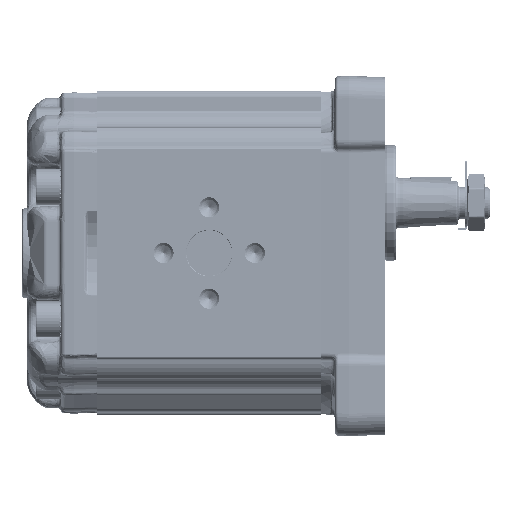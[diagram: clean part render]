
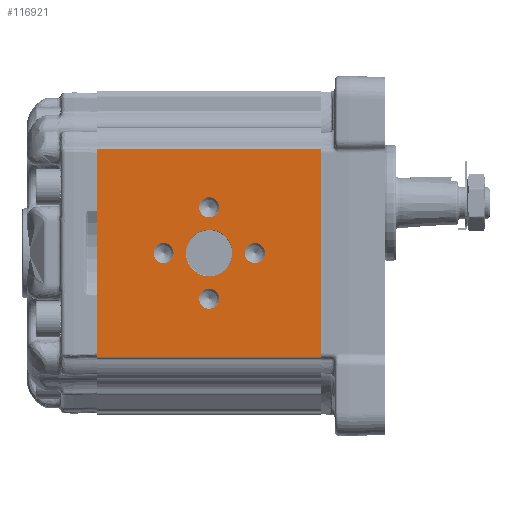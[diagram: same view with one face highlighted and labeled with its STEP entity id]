
A CAD part, left-side view. The second image highlights one B-rep face of the part: STEP entity #116921.
In plain terms, the highlighted planar face has unit normal (-1, 0, 0) as drawn and (1, 0, 0) by its records, which use the part's own axes.
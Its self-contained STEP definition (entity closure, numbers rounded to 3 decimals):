
#6837=PLANE('',#123596);
#9658=LINE('',#179817,#14517);
#9669=LINE('',#179901,#14528);
#9715=LINE('',#180067,#14574);
#9716=LINE('',#180068,#14575);
#14517=VECTOR('',#137532,1000.);
#14528=VECTOR('',#137607,1000.);
#14574=VECTOR('',#137785,1000.);
#14575=VECTOR('',#137786,1000.);
#29621=ORIENTED_EDGE('',*,*,#50610,.T.);
#29622=ORIENTED_EDGE('',*,*,#50611,.T.);
#29623=ORIENTED_EDGE('',*,*,#50612,.T.);
#29624=ORIENTED_EDGE('',*,*,#50613,.T.);
#29625=ORIENTED_EDGE('',*,*,#50614,.T.);
#29626=ORIENTED_EDGE('',*,*,#50485,.F.);
#29627=ORIENTED_EDGE('',*,*,#50615,.T.);
#29628=ORIENTED_EDGE('',*,*,#50527,.F.);
#29629=ORIENTED_EDGE('',*,*,#50616,.T.);
#50485=EDGE_CURVE('',#61846,#61847,#9658,.T.);
#50527=EDGE_CURVE('',#61888,#61889,#9669,.T.);
#50610=EDGE_CURVE('',#61937,#61937,#68749,.F.);
#50611=EDGE_CURVE('',#61938,#61938,#68750,.F.);
#50612=EDGE_CURVE('',#61939,#61939,#68751,.F.);
#50613=EDGE_CURVE('',#61940,#61940,#68752,.F.);
#50614=EDGE_CURVE('',#61941,#61941,#68753,.F.);
#50615=EDGE_CURVE('',#61846,#61889,#9715,.F.);
#50616=EDGE_CURVE('',#61888,#61847,#9716,.F.);
#61846=VERTEX_POINT('',#179816);
#61847=VERTEX_POINT('',#179818);
#61888=VERTEX_POINT('',#179902);
#61889=VERTEX_POINT('',#179903);
#61937=VERTEX_POINT('',#180058);
#61938=VERTEX_POINT('',#180060);
#61939=VERTEX_POINT('',#180062);
#61940=VERTEX_POINT('',#180064);
#61941=VERTEX_POINT('',#180066);
#68749=CIRCLE('',#123597,4.4);
#68750=CIRCLE('',#123598,4.4);
#68751=CIRCLE('',#123599,4.4);
#68752=CIRCLE('',#123600,4.4);
#68753=CIRCLE('',#123601,10.2);
#73000=EDGE_LOOP('',(#29621));
#73001=EDGE_LOOP('',(#29622));
#73002=EDGE_LOOP('',(#29623));
#73003=EDGE_LOOP('',(#29624));
#73004=EDGE_LOOP('',(#29625));
#73005=EDGE_LOOP('',(#29626,#29627,#29628,#29629));
#78066=FACE_BOUND('',#73000,.T.);
#78067=FACE_BOUND('',#73001,.T.);
#78068=FACE_BOUND('',#73002,.T.);
#78069=FACE_BOUND('',#73003,.T.);
#78070=FACE_BOUND('',#73004,.T.);
#78071=FACE_BOUND('',#73005,.T.);
#116921=ADVANCED_FACE('',(#78066,#78067,#78068,#78069,#78070,#78071),#6837,
 .T.);
#123596=AXIS2_PLACEMENT_3D('',#180056,#137773,#137774);
#123597=AXIS2_PLACEMENT_3D('',#180057,#137775,#137776);
#123598=AXIS2_PLACEMENT_3D('',#180059,#137777,#137778);
#123599=AXIS2_PLACEMENT_3D('',#180061,#137779,#137780);
#123600=AXIS2_PLACEMENT_3D('',#180063,#137781,#137782);
#123601=AXIS2_PLACEMENT_3D('',#180065,#137783,#137784);
#137532=DIRECTION('',(0.,0.,-1.));
#137607=DIRECTION('',(0.,0.,1.));
#137773=DIRECTION('',(1.,0.,0.));
#137774=DIRECTION('',(0.,0.,1.));
#137775=DIRECTION('',(1.,0.,0.));
#137776=DIRECTION('',(0.,0.,1.));
#137777=DIRECTION('',(1.,0.,0.));
#137778=DIRECTION('',(0.,0.,1.));
#137779=DIRECTION('',(1.,0.,0.));
#137780=DIRECTION('',(0.,0.,1.));
#137781=DIRECTION('',(1.,0.,0.));
#137782=DIRECTION('',(0.,0.,1.));
#137783=DIRECTION('',(1.,0.,0.));
#137784=DIRECTION('',(0.,0.,1.));
#137785=DIRECTION('',(0.,1.,0.));
#137786=DIRECTION('',(0.,-1.,0.));
#179816=CARTESIAN_POINT('',(57.5,98.,45.5));
#179817=CARTESIAN_POINT('',(57.5,98.,91.388));
#179818=CARTESIAN_POINT('',(57.5,98.,-45.5));
#179901=CARTESIAN_POINT('',(57.5,0.,-44.978));
#179902=CARTESIAN_POINT('',(57.5,0.,-45.5));
#179903=CARTESIAN_POINT('',(57.5,0.,45.5));
#180056=CARTESIAN_POINT('',(57.5,-135.113,91.388));
#180057=CARTESIAN_POINT('',(57.5,49.,20.));
#180058=CARTESIAN_POINT('',(57.5,49.,24.4));
#180059=CARTESIAN_POINT('',(57.5,29.,0.));
#180060=CARTESIAN_POINT('',(57.5,29.,4.4));
#180061=CARTESIAN_POINT('',(57.5,49.,-20.));
#180062=CARTESIAN_POINT('',(57.5,49.,-15.6));
#180063=CARTESIAN_POINT('',(57.5,69.,0.));
#180064=CARTESIAN_POINT('',(57.5,69.,4.4));
#180065=CARTESIAN_POINT('',(57.5,49.,0.));
#180066=CARTESIAN_POINT('',(57.5,49.,10.2));
#180067=CARTESIAN_POINT('',(57.5,-135.113,45.5));
#180068=CARTESIAN_POINT('',(57.5,-135.113,-45.5));
